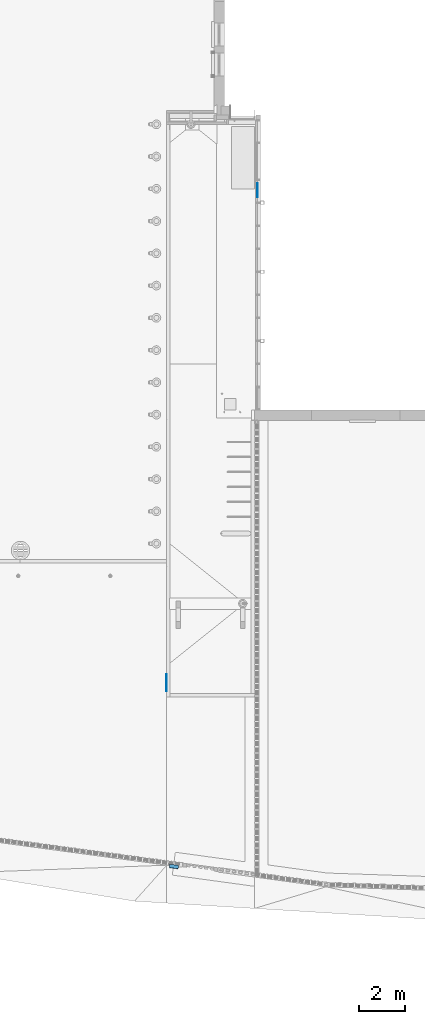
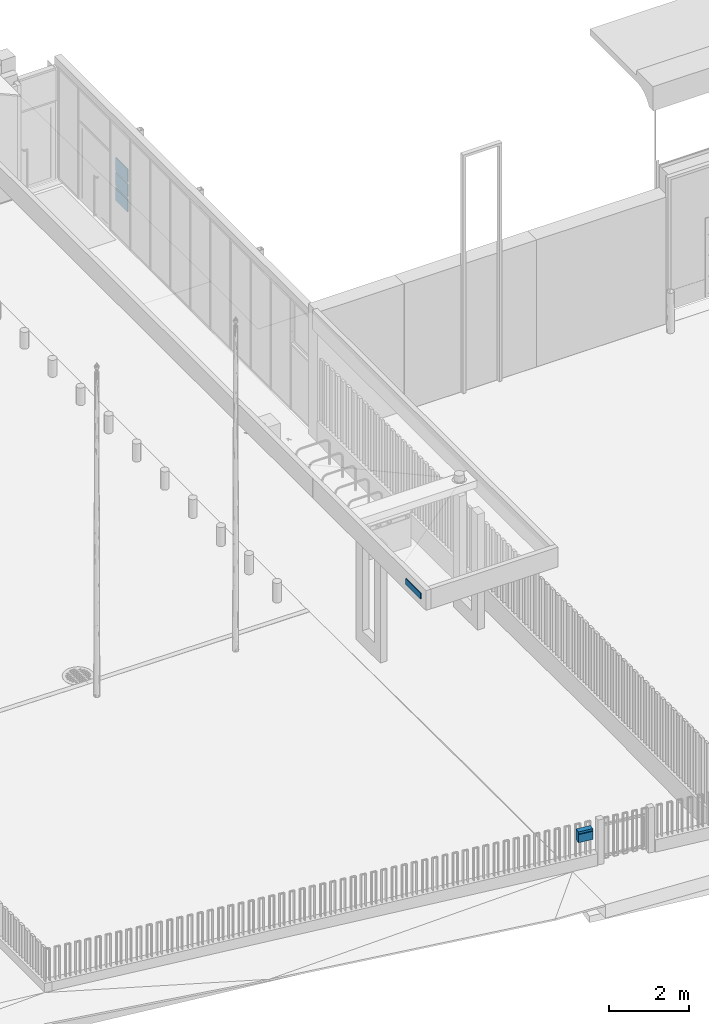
# One storey, part 52 of 77: 5 discrete accessories.
"""IFC2X3 building model written with IfcOpenShell, lengths in millimetres."""

import ifcopenshell
import ifcopenshell.guid

model = None  # the IFC model being written
_history = None  # IfcOwnerHistory: only IFC2X3 demands one
_inside = {}  # id of a spatial element -> (the spatial element, [elements in it])
_under = {}  # id of a project, library or spatial element -> (it, [spatial elements below it])
_declared = {}  # id of a project -> (the project, [libraries it declares])
_typed = {}  # id of a type object -> (the type object, [elements of that type])
_made_of = {}  # id of a material, layer set ... -> (it, [elements and type objects made of it])


def new_model(schema):
    """Start an empty IFC model of exactly this schema.

    Asked for "IFC4X3", IfcOpenShell would pick the latest addendum, in which some entities
    have other attributes; the version numbers below select the first issue.
    IFC2X3 requires an IfcOwnerHistory on every rooted entity: one is made here for all.
    """
    global model, _history
    if schema == "IFC4X3":
        model = ifcopenshell.file(schema_version=(4, 3, 0, 0))
    else:
        model = ifcopenshell.file(schema=schema)
    _inside.clear()
    _under.clear()
    _declared.clear()
    _typed.clear()
    _made_of.clear()
    _history = None
    if model.schema == "IFC2X3":
        org = make("IfcOrganization", Name="unknown")
        user = make(
            "IfcPersonAndOrganization",
            ThePerson=make("IfcPerson", FamilyName="unknown"),
            TheOrganization=org,
        )
        app = make(
            "IfcApplication",
            ApplicationDeveloper=org,
            Version="unknown",
            ApplicationFullName="unknown",
            ApplicationIdentifier="unknown",
        )
        _history = make(
            "IfcOwnerHistory",
            OwningUser=user,
            OwningApplication=app,
            ChangeAction="ADDED",
            CreationDate=0,
        )
    return model


def make(cls, **values):
    """One entity of the class cls with the attributes given. An attribute that is None is left unset."""
    return model.create_entity(
        cls, **{name: value for name, value in values.items() if value is not None}
    )


def entity(cls, *values):
    """Any entity or typed value of the class cls, its attributes in the order of the schema. None: left unset."""
    e = model.create_entity(cls)
    for i, value in enumerate(values):
        if value is not None:
            e[i] = value
    return e


def rooted(cls, **values):
    """An entity with a GlobalId (a new one), such as an element, a storey or a relation."""
    return make(cls, GlobalId=ifcopenshell.guid.new(), OwnerHistory=_history, **values)


def si_unit(unit_type, name, prefix=None):
    """IfcSIUnit, for example si_unit("LENGTHUNIT", "METRE", prefix="MILLI")."""
    return make("IfcSIUnit", UnitType=unit_type, Prefix=prefix, Name=name)


def converted_unit(unit_type, name, factor, base, dimensions=None, offset=None):
    """IfcConversionBasedUnit, such as the inch: factor (a typed value) times the base unit."""
    return make(
        "IfcConversionBasedUnit"
        if offset is None
        else "IfcConversionBasedUnitWithOffset",
        ConversionOffset=offset,
        Dimensions=None
        if dimensions is None
        else entity("IfcDimensionalExponents", *dimensions),
        UnitType=unit_type,
        Name=name,
        ConversionFactor=make(
            "IfcMeasureWithUnit", ValueComponent=factor, UnitComponent=base
        ),
    )


def derived_unit(unit_type, elements):
    """IfcDerivedUnit: a product of units, each with its exponent."""
    return make(
        "IfcDerivedUnit",
        Elements=[
            make("IfcDerivedUnitElement", Unit=unit, Exponent=power)
            for unit, power in elements
        ],
        UnitType=unit_type,
    )


def assignment(units):
    """IfcUnitAssignment: the units of a project."""
    return None if units is None else make("IfcUnitAssignment", Units=units)


def point(xyz):
    """IfcCartesianPoint."""
    return None if xyz is None else make("IfcCartesianPoint", Coordinates=xyz)


def direction(xyz):
    """IfcDirection."""
    return None if xyz is None else make("IfcDirection", DirectionRatios=xyz)


def frame(location, z_axis=None, x_axis=None):
    """IfcAxis2Placement3D, a coordinate frame: its origin and axes. An axis left out is left unset."""
    return make(
        "IfcAxis2Placement3D",
        Location=point(location),
        Axis=direction(z_axis),
        RefDirection=direction(x_axis),
    )


def frame_2d(location, x_axis=None):
    """IfcAxis2Placement2D, a coordinate frame in the plane: its origin and x axis."""
    return make(
        "IfcAxis2Placement2D", Location=point(location), RefDirection=direction(x_axis)
    )


def origin():
    """The frame at (0, 0, 0) with its axes left unset."""
    return frame((0.0, 0.0, 0.0))


def origin_2d_with_axis():
    """The frame at (0, 0) in the plane with the x axis (1, 0) written out."""
    return frame_2d((0.0, 0.0), x_axis=(1.0, 0.0))


def place(relative_to, where):
    """IfcLocalPlacement: puts the frame where relative to a parent placement (None: the world)."""
    return make(
        "IfcLocalPlacement", PlacementRelTo=relative_to, RelativePlacement=where
    )


def context(
    kind, dimensions, precision=None, world=None, true_north=None, identifier=None
):
    """IfcGeometricRepresentationContext, for example the 3D "Model" context."""
    return make(
        "IfcGeometricRepresentationContext",
        ContextIdentifier=identifier,
        ContextType=kind,
        CoordinateSpaceDimension=dimensions,
        Precision=precision,
        WorldCoordinateSystem=world,
        TrueNorth=true_north,
    )


def subcontext(parent, identifier, kind, view, scale=None):
    """IfcGeometricRepresentationSubContext, for example "Body" below "Model"."""
    return make(
        "IfcGeometricRepresentationSubContext",
        ContextIdentifier=identifier,
        ContextType=kind,
        ParentContext=parent,
        TargetScale=scale,
        TargetView=view,
    )


def project(units=None, contexts=None):
    """IfcProject with its units and contexts."""
    return rooted(
        "IfcProject",
        Name="project",
        RepresentationContexts=contexts,
        UnitsInContext=assignment(units),
    )


def spatial(cls, under=None, at=None, **own):
    """A site, building, storey or space (cls), placed at a placement, below another one or the project."""
    s = rooted(cls, ObjectPlacement=at, **own)
    if under is not None:
        _under.setdefault(under.id(), (under, []))[1].append(s)
    return s


def polyline(points):
    """IfcPolyline through the points."""
    return make("IfcPolyline", Points=[point(p) for p in points])


def profile(cls, at=None, kind="AREA", **sizes):
    """A parametric profile (cls). Its sizes go by their IFC names, for example OverallWidth=200.0."""
    return make(cls, ProfileType=kind, Position=at, **sizes)


def rectangle(**sizes):
    """IfcRectangleProfileDef."""
    return profile("IfcRectangleProfileDef", **sizes)


def circle(**sizes):
    """IfcCircleProfileDef."""
    return profile("IfcCircleProfileDef", **sizes)


def outline(outer, holes=None, kind="AREA"):
    """IfcArbitraryClosedProfileDef: a profile drawn as a closed curve; with holes, ...WithVoids."""
    if holes is None:
        return make("IfcArbitraryClosedProfileDef", ProfileType=kind, OuterCurve=outer)
    return make(
        "IfcArbitraryProfileDefWithVoids",
        ProfileType=kind,
        OuterCurve=outer,
        InnerCurves=holes,
    )


def extrude(swept, where, along, depth):
    """IfcExtrudedAreaSolid: the profile swept, set in the frame where, extruded along a direction by depth."""
    return make(
        "IfcExtrudedAreaSolid",
        SweptArea=swept,
        Position=where,
        ExtrudedDirection=direction(along),
        Depth=depth,
    )


def shape(context_of_items, identifier, shape_type, items):
    """IfcShapeRepresentation: the items that make up one representation, for example the "Body"."""
    return make(
        "IfcShapeRepresentation",
        ContextOfItems=context_of_items,
        RepresentationIdentifier=identifier,
        RepresentationType=shape_type,
        Items=items,
    )


def source(mapping_origin, context_of_items, identifier, shape_type, items):
    """IfcRepresentationMap: a shape defined once, which mapped items show again and again."""
    return make(
        "IfcRepresentationMap",
        MappingOrigin=mapping_origin,
        MappedRepresentation=shape(context_of_items, identifier, shape_type, items),
    )


def transform(
    local_origin,
    x_axis=None,
    y_axis=None,
    z_axis=None,
    scale=None,
    scale2=None,
    scale3=None,
    uniform=True,
):
    """IfcCartesianTransformationOperator3D, or its non-uniform kind. x_axis, y_axis, z_axis: its Axis1, 2, 3."""
    if uniform:
        return make(
            "IfcCartesianTransformationOperator3D",
            Axis1=direction(x_axis),
            Axis2=direction(y_axis),
            LocalOrigin=point(local_origin),
            Scale=scale,
            Axis3=direction(z_axis),
        )
    return make(
        "IfcCartesianTransformationOperator3DnonUniform",
        Axis1=direction(x_axis),
        Axis2=direction(y_axis),
        LocalOrigin=point(local_origin),
        Scale=scale,
        Axis3=direction(z_axis),
        Scale2=scale2,
        Scale3=scale3,
    )


def mapped(mapping_source, mapping_target):
    """IfcMappedItem: shows the shape of a source again, moved by a transform."""
    return make(
        "IfcMappedItem", MappingSource=mapping_source, MappingTarget=mapping_target
    )


def material(Name=None, Category=None):
    """IfcMaterial."""
    return make("IfcMaterial", Name=Name, Category=Category)


def made_of(thing, what):
    """Note that an element or type object is made of a material, layer set ...; save() writes the relation."""
    if what is not None:
        _made_of.setdefault(what.id(), (what, []))[1].append(thing)
    return thing


def type_object(cls, material=None, **own):
    """A type object (cls), such as IfcWallType, which elements share."""
    return made_of(rooted(cls, **own), material)


def type_shapes(of_type, sources):
    """Give a type object the sources (RepresentationMaps) that its elements show as mapped items."""
    of_type.RepresentationMaps = sources


def element(
    cls,
    number,
    at=None,
    inside=None,
    cuts=None,
    type_object=None,
    material=None,
    context=None,
    identifier="Body",
    shape_type=None,
    held_by="IfcProductDefinitionShape",
    body=None,
    shapes=None,
    **own,
):
    """One element of the class cls, such as IfcWall. Its Tag is "e" and its number.

    at: its placement. inside: the storey or other place that contains it. cuts: it is an
    opening in that element (IfcRelVoidsElement). A single representation is given by context,
    identifier, shape_type and body (its items); several are given by shapes. held_by: the class
    of the entity that holds the representations. save() writes the other relations.
    """
    e = rooted(cls, Tag="e%d" % number, ObjectPlacement=at, **own)
    if body is not None:
        shapes = [shape(context, identifier, shape_type, body)]
    if shapes is not None:
        e.Representation = make(held_by, Representations=shapes)
    if inside is not None:
        _inside.setdefault(inside.id(), (inside, []))[1].append(e)
    if cuts is not None:
        rooted(
            "IfcRelVoidsElement", RelatingBuildingElement=cuts, RelatedOpeningElement=e
        )
    if type_object is not None:
        _typed.setdefault(type_object.id(), (type_object, []))[1].append(e)
    return made_of(e, material)


def aggregate(whole, parts):
    """IfcRelAggregates: a whole, such as a stair, and the parts it consists of."""
    return rooted("IfcRelAggregates", RelatingObject=whole, RelatedObjects=parts)


def save(model, path):
    """Write the relations noted so far, then the file.

    IfcRelAggregates (storeys below a building ...), IfcRelContainedInSpatialStructure (elements
    in a storey), IfcRelDefinesByType, IfcRelAssociatesMaterial and IfcRelDeclares: one each for
    every whole, place, type object, material and project.
    """
    for whole, parts in _under.values():
        aggregate(whole, parts)
    for where, things in _inside.values():
        rooted(
            "IfcRelContainedInSpatialStructure",
            RelatedElements=things,
            RelatingStructure=where,
        )
    for kind, things in _typed.values():
        rooted("IfcRelDefinesByType", RelatedObjects=things, RelatingType=kind)
    for what, things in _made_of.values():
        rooted("IfcRelAssociatesMaterial", RelatedObjects=things, RelatingMaterial=what)
    for by, libraries in _declared.values():
        rooted("IfcRelDeclares", RelatingContext=by, RelatedDefinitions=libraries)
    model.write(path)


model = new_model("IFC2X3")

# Units and contexts
model_context = context("Model", 3, precision=0.01, world=origin(), true_north=direction((6.12303176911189e-17, 1.0)))
body_context = subcontext(model_context, "Body", "Model", "MODEL_VIEW")
ifc_project = project(units=[si_unit("LENGTHUNIT", "METRE", prefix="MILLI"), si_unit("AREAUNIT", "SQUARE_METRE"), si_unit("VOLUMEUNIT", "CUBIC_METRE"), converted_unit("PLANEANGLEUNIT", "DEGREE", entity("IfcRatioMeasure", 0.0174532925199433), si_unit("PLANEANGLEUNIT", "RADIAN"), dimensions=[0, 0, 0, 0, 0, 0, 0]), si_unit("MASSUNIT", "GRAM", prefix="KILO"), derived_unit("MASSDENSITYUNIT", [(si_unit("MASSUNIT", "GRAM", prefix="KILO"), 1), (si_unit("LENGTHUNIT", "METRE"), -3)]), si_unit("TIMEUNIT", "SECOND"), si_unit("FREQUENCYUNIT", "HERTZ"), si_unit("THERMODYNAMICTEMPERATUREUNIT", "DEGREE_CELSIUS"), derived_unit("THERMALTRANSMITTANCEUNIT", [(si_unit("MASSUNIT", "GRAM", prefix="KILO"), 1), (si_unit("THERMODYNAMICTEMPERATUREUNIT", "KELVIN"), -1), (si_unit("TIMEUNIT", "SECOND"), -3)]), derived_unit("VOLUMETRICFLOWRATEUNIT", [(si_unit("LENGTHUNIT", "METRE"), 3), (si_unit("TIMEUNIT", "SECOND"), -1)]), si_unit("ELECTRICCURRENTUNIT", "AMPERE"), si_unit("ELECTRICVOLTAGEUNIT", "VOLT"), si_unit("POWERUNIT", "WATT"), si_unit("FORCEUNIT", "NEWTON", prefix="KILO"), si_unit("ILLUMINANCEUNIT", "LUX"), si_unit("LUMINOUSFLUXUNIT", "LUMEN"), si_unit("LUMINOUSINTENSITYUNIT", "CANDELA"), derived_unit("USERDEFINED", [(si_unit("MASSUNIT", "GRAM", prefix="KILO"), -1), (si_unit("LENGTHUNIT", "METRE"), -2), (si_unit("TIMEUNIT", "SECOND"), 3), (si_unit("LUMINOUSFLUXUNIT", "LUMEN"), 1)]), derived_unit("LINEARVELOCITYUNIT", [(si_unit("LENGTHUNIT", "METRE"), 1), (si_unit("TIMEUNIT", "SECOND"), -1)]), si_unit("PRESSUREUNIT", "PASCAL"), derived_unit("USERDEFINED", [(si_unit("LENGTHUNIT", "METRE"), -2), (si_unit("MASSUNIT", "GRAM", prefix="KILO"), 1), (si_unit("TIMEUNIT", "SECOND"), -2)])], contexts=[model_context])

# Site, building, storey
site_placement = place(None, origin())
site = spatial("IfcSite", under=ifc_project, at=site_placement, Name="Default", CompositionType="ELEMENT")
building_placement = place(site_placement, origin())
building = spatial("IfcBuilding", under=site, at=building_placement, CompositionType="ELEMENT")
storey_placement = place(building_placement, origin())
storey = spatial("IfcBuildingStorey", under=building, at=storey_placement, Name="1. KORRUS", CompositionType="ELEMENT", Elevation=0.0)

# Discrete accessories
discrete_accessory_type_1 = type_object("IfcDiscreteAccessoryType", Name="600X400")
shared_shape_1 = source(origin(), body_context, "Body", "SweptSolid", [
    extrude(rectangle(XDim=25.0, YDim=600.0, at=origin_2d_with_axis()), frame((0.0, -12.5, 0.0), z_axis=(0.0, 0.0, 1.0), x_axis=(0.0, 1.0, 0.0)), (0.0, 0.0, 1.0), 400.0),
])
type_shapes(discrete_accessory_type_1, [shared_shape_1])
for number, where, z_axis, x_axis, name in (
    (1, (1453.40453708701, 9542.5928414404, 1900.0), (0.0, 0.0, 1.0), (0.0, -1.0, 0.0), "silt:600X400"),
    (2, (1453.40453708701, 9542.5928414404, 1450.0), (0.0, 0.0, 1.0), (0.0, -1.0, 0.0), "silt:600X400"),
    (3, (1453.40453708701, 9542.5928414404, 1000.0), (0.0, 0.0, 1.0), (0.0, -1.0, 0.0), "silt:600X400"),
):
    element("IfcDiscreteAccessory", number, at=place(storey_placement, frame(where, z_axis=z_axis, x_axis=x_axis)), inside=storey, type_object=discrete_accessory_type_1, Name=name, ObjectType="600X400", context=body_context, shape_type="MappedRepresentation", body=[
        mapped(shared_shape_1, transform((0.0, 0.0, 0.0), scale=1.0)),
    ])
discrete_accessory_type_2 = type_object("IfcDiscreteAccessoryType", Name="750X180")
shared_shape_2 = source(origin(), body_context, "Body", "SweptSolid", [
    extrude(rectangle(XDim=25.0, YDim=750.0, at=origin_2d_with_axis()), frame((-75.0, -12.5, 0.0), z_axis=(0.0, 0.0, 1.0), x_axis=(0.0, 1.0, 0.0)), (0.0, 0.0, 1.0), 180.0),
])
type_shapes(discrete_accessory_type_2, [shared_shape_2])
discrete_accessory_1_placement = place(storey_placement, frame((-2500.0, -11916.7713718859, 3610.0), z_axis=(0.0, 0.0, 1.0), x_axis=(0.0, -1.0, 0.0)))
element("IfcDiscreteAccessory", 4, at=discrete_accessory_1_placement, inside=storey, type_object=discrete_accessory_type_2, Name="silt:750X180", ObjectType="750X180", context=body_context, shape_type="MappedRepresentation", body=[
    mapped(shared_shape_2, transform((0.0, 0.0, 0.0), scale=1.0)),
])
ifc_material = material(Name="Must-al-komposiitplaat")
discrete_accessory_type_3 = type_object("IfcDiscreteAccessoryType", Name="postkast", material=ifc_material)
shared_shape_3 = source(origin(), body_context, "Body", "SweptSolid", [
    extrude(circle(Radius=9.99999999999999, at=frame_2d((0.0, -3.38395977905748e-14), x_axis=(1.0, 0.0))), frame((195.0, -2.65671504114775, 227.0), z_axis=(0.0, 1.0, 0.0), x_axis=(1.0, 0.0, 0.0)), (0.0, 0.0, 1.0), 11.0835141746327),
    extrude(outline(polyline([(-45.4072315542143, -1.45251487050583), (-45.4072315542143, -3.45251487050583), (15.0361577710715, -3.45251487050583), (30.5927684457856, 3.80165182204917), (30.5927684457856, 6.00840765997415), (14.5927684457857, -1.45251487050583), (-45.4072315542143, -1.45251487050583)])), frame((10.0, -1.45251487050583, 282.592768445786), z_axis=(-1.0, 0.0, 0.0), x_axis=(0.0, 0.0, -1.0)), (0.0, 0.0, -1.0), 369.999999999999),
    extrude(rectangle(XDim=2.0, YDim=369.999999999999, at=origin_2d_with_axis()), frame((195.0, 1.0, 2.0), z_axis=(0.0, 0.0, 1.0), x_axis=(0.0, 1.0, 0.0)), (0.0, 0.0, 1.0), 250.0),
    extrude(rectangle(XDim=390.0, YDim=150.0, at=origin_2d_with_axis()), frame((195.0, 75.0, 328.0), z_axis=(0.0, 0.0, 1.0), x_axis=(-1.0, 0.0, 0.0)), (0.0, 0.0, 1.0), 2.00000000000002),
    extrude(outline(polyline([(-99.6666666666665, -195.0), (50.3333333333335, -195.0), (50.3333333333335, -185.0), (48.3333333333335, -185.0), (48.3333333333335, -193.0), (-97.6666666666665, -193.0), (-97.666666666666, 193.0), (48.3333333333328, 193.0), (48.3333333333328, 185.0), (50.3333333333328, 185.0), (50.3333333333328, 195.0), (-99.666666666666, 195.0), (-99.6666666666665, -195.0)])), frame((195.0, 50.3333333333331, 0.0), z_axis=(0.0, 0.0, 1.0), x_axis=(0.0, -1.0, 0.0)), (0.0, 0.0, 1.0), 330.0),
    extrude(rectangle(XDim=390.0, YDim=150.0, at=origin_2d_with_axis()), frame((195.0, 75.0, 0.0), z_axis=(0.0, 0.0, 1.0), x_axis=(-1.0, 0.0, 0.0)), (0.0, 0.0, 1.0), 2.0),
])
type_shapes(discrete_accessory_type_3, [shared_shape_3])
discrete_accessory_2_placement = place(storey_placement, frame((-2391.39862109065, -19863.3946383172, 782.767225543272), z_axis=(0.0, 0.0, 1.0), x_axis=(0.990990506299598, -0.133932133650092, 0.0)))
element("IfcDiscreteAccessory", 5, at=discrete_accessory_2_placement, inside=storey, type_object=discrete_accessory_type_3, material=ifc_material, Name="postkast:postkast", ObjectType="postkast", context=body_context, shape_type="MappedRepresentation", body=[
    mapped(shared_shape_3, transform((0.0, 0.0, 0.0), scale=1.0)),
])

save(model, "model.ifc")
